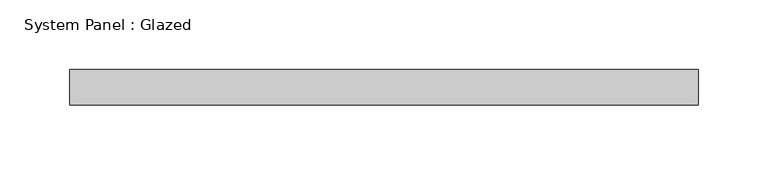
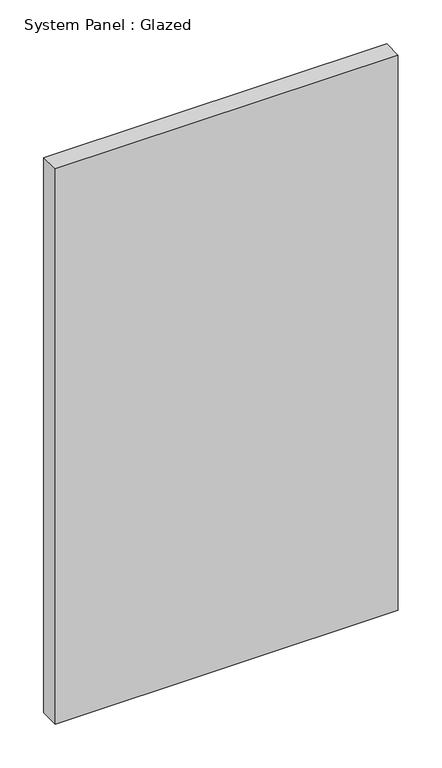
"""IFC4 building model written with IfcOpenShell, lengths in millimetres: plate geometry, System Panel : Glazed."""

from ifc_helpers import new_model, si_unit, origin, origin_with_axes, place, context, project, spatial, polyline, outline, extrude, source, transform, mapped, element, save


def system_panel_glazed_d449556d(model_context):
    return source(origin(), model_context, "Body", "SweptSolid", [
        extrude(outline(polyline([(225.3454554, 19.05), (-225.3454554, 19.05), (-225.3454554, 44.45), (225.3454554, 44.45), (225.3454554, 19.05)])), origin_with_axes(), (0.0, 0.0, 1.0), 770.6690025),
    ])


if __name__ == "__main__":
    model = new_model("IFC4")
    model_context = context("Model", 3, world=origin())
    ifc_project = project(units=[si_unit("LENGTHUNIT", "METRE", prefix="MILLI")], contexts=[model_context])
    site = spatial("IfcSite", under=ifc_project)
    building = spatial("IfcBuilding", under=site)
    placement = place(None, origin())
    system_panel_glazed_shape = system_panel_glazed_d449556d(model_context)
    element("IfcPlate", 1, ObjectType="System Panel : Glazed", at=placement, inside=building, context=model_context, shape_type="MappedRepresentation", body=[
        mapped(system_panel_glazed_shape, transform((0.0, 0.0, 0.0), x_axis=(1.0, 0.0, 0.0), y_axis=(0.0, 1.0, 0.0), z_axis=(0.0, 0.0, 1.0))),
    ])
    save(model, "model.ifc")
